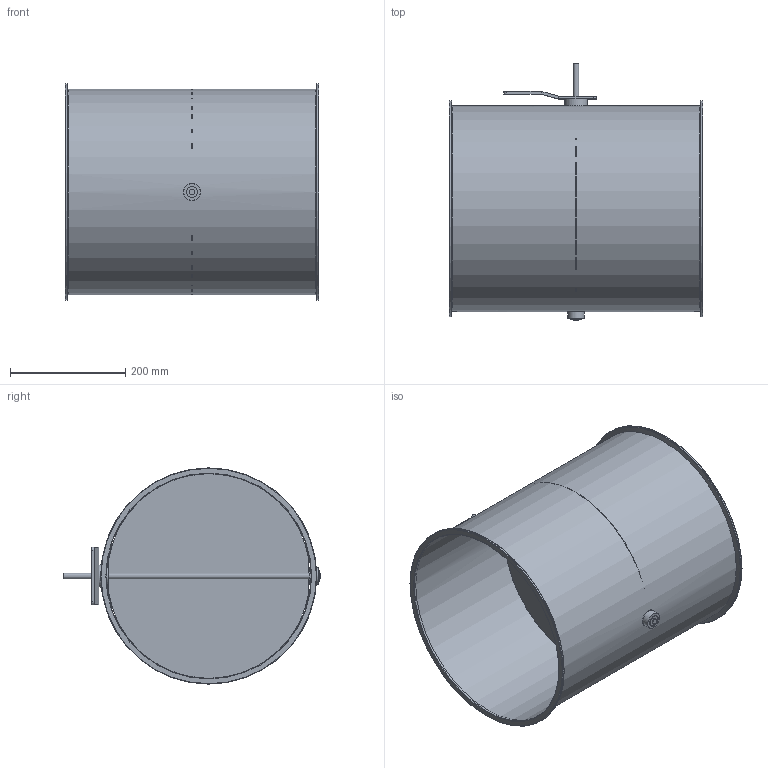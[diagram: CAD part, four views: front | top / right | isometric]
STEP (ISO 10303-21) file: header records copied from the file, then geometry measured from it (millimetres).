
FILE_DESCRIPTION(/* description */ (''),/* implementation_level */ '2;1');
FILE_NAME(/* name */ 'EA107-80B__355_L440_Belimo_Typ_SM.stp',/* time_stamp */ '2017-12-06T15:22:22+01:00',/* author */ (''),/* organization */ (''),/* preprocessor_version */ 'ST-DEVELOPER v11',/* originating_system */ 'SIEMENS UGS NX 6.0',/* authorisation */ '');
FILE_SCHEMA (('CONFIG_CONTROL_DESIGN'));
Length unit declared in the file: millimetre
Products named in the file (1): gars18E2j2ed
Bounding box: 440 x 445 x 375 mm (x, y, z)
Volume: 727566.1 mm3; surface area: 1280810.7 mm2
Topology: 8 solids, 8 shells, 76 faces, 158 edges, 100 vertices
Faces by surface type: plane 36, cylinder 32, torus 6, cone 2
Full cylindrical faces by diameter (mm): 4.1 x4, 10 x3, 19 x3, 19.85 x2, 20 x2, 29 x1, 30 x2, 39 x1, 355 x1, 356.6 x1, 375 x2
Entity records: 1960 total; most frequent: CARTESIAN_POINT 353, DIRECTION 334, ORIENTED_EDGE 236, AXIS2_PLACEMENT_3D 143, EDGE_LOOP 132, EDGE_CURVE 118, FACE_BOUND 102, VERTEX_POINT 90
